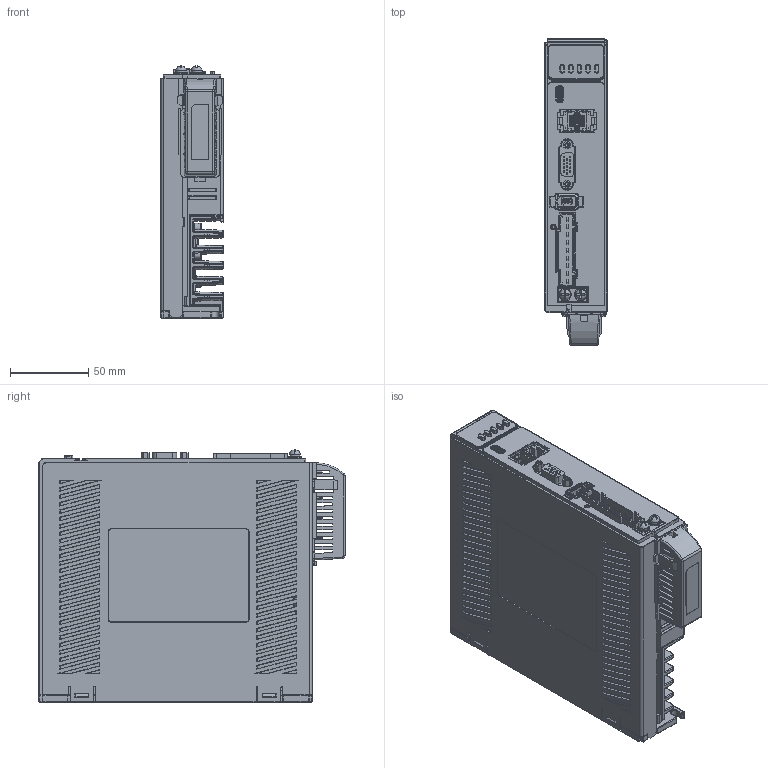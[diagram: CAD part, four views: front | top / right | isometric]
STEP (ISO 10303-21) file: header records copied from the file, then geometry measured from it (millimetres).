
FILE_DESCRIPTION((''),'2;1');
FILE_NAME('L7N_400_ASM','2023-04-11T',('Administrator'),(''),'PRO/ENGINEER BY PARAMETRIC TECHNOLOGY CORPORATION, 2010280','PRO/ENGINEER BY PARAMETRIC TECHNOLOGY CORPORATION, 2010280','');
FILE_SCHEMA(('CONFIG_CONTROL_DESIGN','SHAPE_APPEARANCE_LAYERS_GROUPS'));
Products named in the file (31): M3X8_GB818_9_1_1; D3_GB9074_26_11_1_1; D3_GB9074_24_14_1_1; M3X8_GB9074_4_ASM_1_ASM_1_ASM_A_ASM; M4X10_GB818_1_1_1; D4_GB9074_26_1_1_1; D4_GB9074_24_1_1_1; M4X10_GB9074_4_ASM_1_ASM_1_ASM__ASM; PCB_L8L_2; 9P___1_1; JDDZ____1_1; PCB_SMALL_L7__1; FUS606_REF_1; C-5788516-1-A-3D_Z_1; RJ45_2X1__1_1; MANIFOLD_SOLID_BREP_55389_1; MANIFOLD_SOLID_BREP_55877_1; MANIFOLD_SOLID_BREP_56365_1; MANIFOLD_SOLID_BREP_56481_1; MANIFOLD_SOLID_BREP_56597_1; HDR15F_1_ASM_3_ASM_ASM_ASM; PCB_L8L_ASM_7_ASM_ASM_ASM; YKL_1; AJ_190117_____1_3; QWA_3_2; AWQ1_2_1; ASS_ASM_2_ASM_3_ASM_ASM_ASM; GZ_L7N_400_4; DB_L7_400_2_1; ASM0001_L7P_ASM_27_ASM_ASM_ASM; L7N_400_ASM
Assembly tree (33 placements, depth 5):
  L7N_400_ASM
    ASM0001_L7P_ASM_27_ASM_ASM_ASM
      M3X8_GB9074_4_ASM_1_ASM_1_ASM_A_ASM  x3
        M3X8_GB818_9_1_1
        D3_GB9074_26_11_1_1
        D3_GB9074_24_14_1_1
      M4X10_GB9074_4_ASM_1_ASM_1_ASM__ASM  x2
        M4X10_GB818_1_1_1
        D4_GB9074_26_1_1_1
        D4_GB9074_24_1_1_1
      PCB_L8L_ASM_7_ASM_ASM_ASM
        PCB_L8L_2
        9P___1_1
        JDDZ____1_1
        PCB_SMALL_L7__1
        FUS606_REF_1
        C-5788516-1-A-3D_Z_1
        RJ45_2X1__1_1
        HDR15F_1_ASM_3_ASM_ASM_ASM
          MANIFOLD_SOLID_BREP_55389_1
          MANIFOLD_SOLID_BREP_55877_1
          MANIFOLD_SOLID_BREP_56365_1
          MANIFOLD_SOLID_BREP_56481_1
          MANIFOLD_SOLID_BREP_56597_1
      YKL_1
      AJ_190117_____1_3
      ASS_ASM_2_ASM_3_ASM_ASM_ASM
        QWA_3_2
        AWQ1_2_1
      GZ_L7N_400_4
      DB_L7_400_2_1
Bounding box: 40 x 196 x 161.49 mm (x, y, z)
Volume: 392264.5 mm3; surface area: 296747.6 mm2
Topology: 35 solids, 35 shells, 6814 faces, 18003 edges, 11058 vertices
Faces by surface type: plane 3496, cylinder 2266, bspline 364, torus 298, sphere 236, cone 110, extrusion 40, revolution 4
Entity records: 225450 total; most frequent: CARTESIAN_POINT 63657, ORIENTED_EDGE 34788, DIRECTION 31413, EDGE_CURVE 17394, VECTOR 11907, LINE 11867, VERTEX_POINT 10812, AXIS2_PLACEMENT_3D 9751
